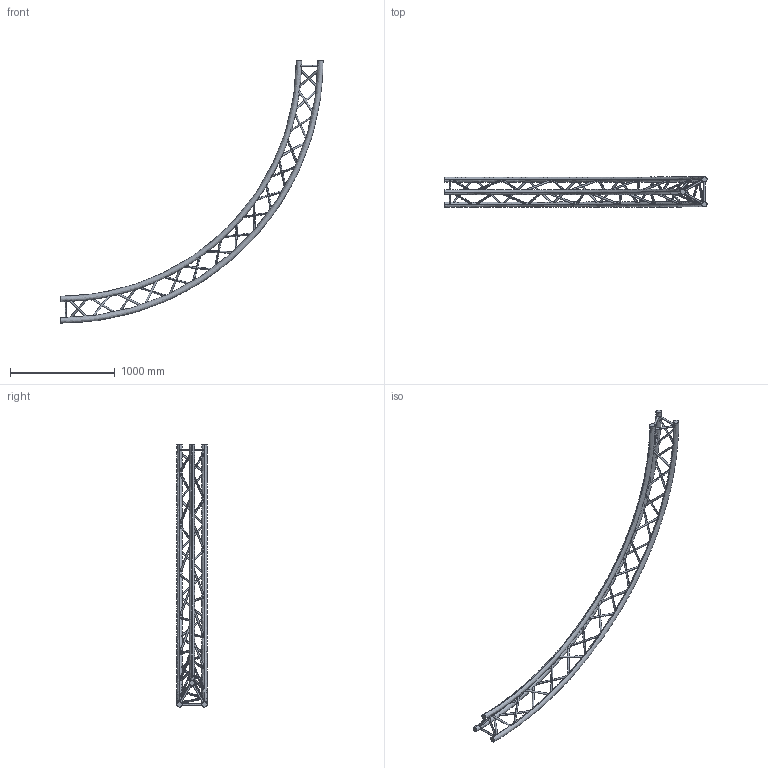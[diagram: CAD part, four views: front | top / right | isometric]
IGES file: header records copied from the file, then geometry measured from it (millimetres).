
Start section: SolidWorks IGES file using analytic representation for surfaces
Global section: file name: K:\BIBLIO\asd_biblio\SX290\Cercles\SXC29PI\SXC29500PI\SXC29500PI.IGS; native system: SolidWorks 2009; preprocessor: SolidWorks 2009; author: des3; date: 091021.110006; units: millimetre
Bounding box: 2500 x 287 x 2500 mm (x, y, z)
Surface area: 2424070.1 mm2 (no closed solid volume)
Topology: 0 solids, 0 shells, 114 faces, 8181 edges, 8181 vertices
Faces by surface type: revolution 102, bspline 12
